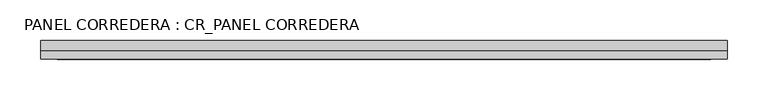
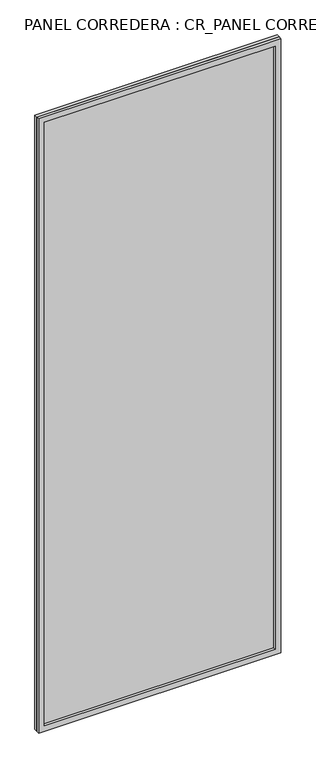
"""IFC4 building model written with IfcOpenShell, lengths in millimetres: plate geometry, PANEL CORREDERA : CR_PANEL CORREDERA."""

from ifc_helpers import new_model, si_unit, frame, origin, origin_with_axes, place, context, project, spatial, polyline, outline, extrude, source, transform, mapped, element, save


def panel_corredera_cr_panel_corredera_e3ae9a5b(model_context):
    return source(origin(), model_context, "Body", "SweptSolid", [
        extrude(outline(polyline([(2250.0, -344.7398935), (0.0, -344.7398935), (0.0, 494.7398935), (2250.0, 494.7398935), (2250.0, -344.7398935)]), holes=[polyline([(2230.0, -324.7398935), (2230.0, 474.7398935), (20.0, 474.7398935), (20.0, -324.7398935), (2230.0, -324.7398935)])]), frame((0.0, 20.0, 0.0), z_axis=(0.0, 1.0, 0.0), x_axis=(0.0, 0.0, 1.0)), (0.0, 0.0, 1.0), 10.0),
        extrude(outline(polyline([(494.7398935, 30.0), (-344.7398935, 30.0), (-344.7398935, 42.5), (494.7398935, 42.5), (494.7398935, 30.0)])), origin_with_axes(), (0.0, 0.0, 1.0), 2250.0),
    ])


if __name__ == "__main__":
    model = new_model("IFC4")
    model_context = context("Model", 3, world=origin())
    ifc_project = project(units=[si_unit("LENGTHUNIT", "METRE", prefix="MILLI")], contexts=[model_context])
    site = spatial("IfcSite", under=ifc_project)
    building = spatial("IfcBuilding", under=site)
    placement = place(None, origin())
    panel_corredera_cr_panel_corredera_shape = panel_corredera_cr_panel_corredera_e3ae9a5b(model_context)
    element("IfcPlate", 1, ObjectType="PANEL CORREDERA : CR_PANEL CORREDERA", at=placement, inside=building, context=model_context, shape_type="MappedRepresentation", body=[
        mapped(panel_corredera_cr_panel_corredera_shape, transform((0.0, 0.0, 0.0), x_axis=(1.0, 0.0, 0.0), y_axis=(0.0, 1.0, 0.0), z_axis=(0.0, 0.0, 1.0))),
    ])
    save(model, "model.ifc")
